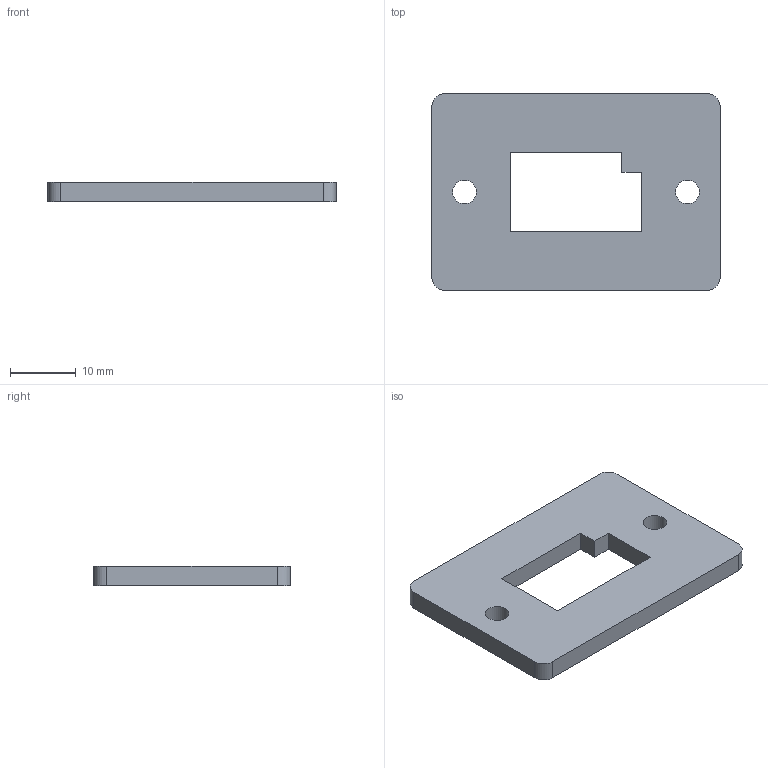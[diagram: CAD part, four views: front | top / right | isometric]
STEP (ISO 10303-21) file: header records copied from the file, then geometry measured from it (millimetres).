
FILE_DESCRIPTION(('Open CASCADE Model'),'2;1');
FILE_NAME('Open CASCADE Shape Model','2026-09-20T04:25:34',('Author'),( 'Open CASCADE'),'Open CASCADE STEP processor 7.9','Open CASCADE 7.9' ,'Unknown');
FILE_SCHEMA(('AUTOMOTIVE_DESIGN { 1 0 10303 214 1 1 1 1 }'));
Length unit declared in the file: millimetre
Products named in the file (1): Open CASCADE STEP translator 7.9 14
Bounding box: 44 x 30 x 3 mm (x, y, z)
Volume: 3195.6 mm3; surface area: 2824 mm2
Topology: 1 solids, 1 shells, 18 faces, 48 edges, 32 vertices
Faces by surface type: plane 12, cylinder 6
Full cylindrical faces by diameter (mm): 3.6 x2
Entity records: 1214 total; most frequent: CARTESIAN_POINT 227, DIRECTION 182, LINE 112, VECTOR 112, ORIENTED_EDGE 96, PCURVE 96, DEFINITIONAL_REPRESENTATION 96, EDGE_CURVE 48
